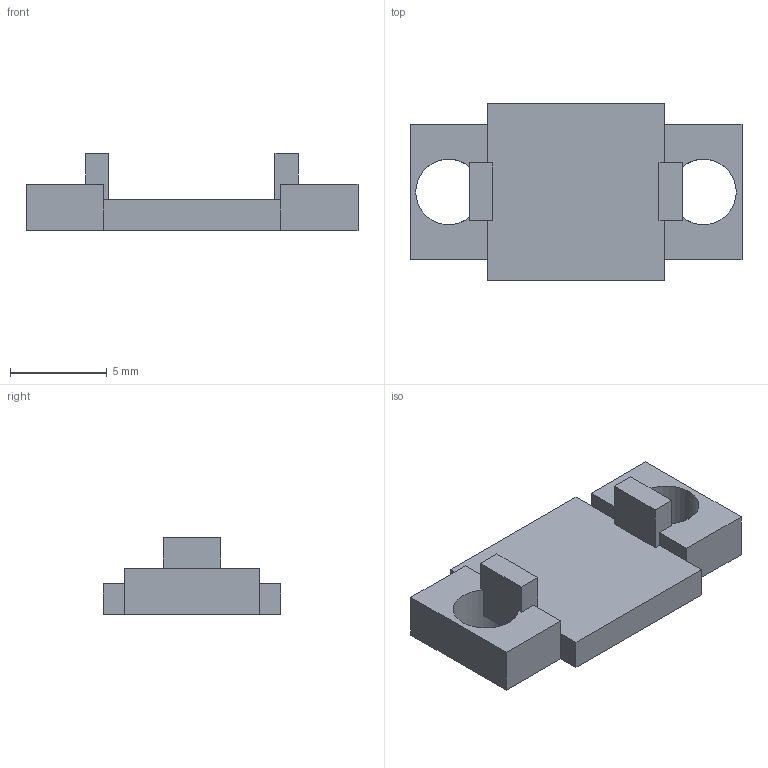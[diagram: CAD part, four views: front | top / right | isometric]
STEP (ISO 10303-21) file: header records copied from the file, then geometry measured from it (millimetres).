
FILE_DESCRIPTION(('FreeCAD Model'),'2;1');
FILE_NAME('Open CASCADE Shape Model','2026-11-20T08:25:38',('FreeCAD'),( 'FreeCAD'),'Open CASCADE STEP processor 7.8','FreeCAD','Unknown');
FILE_SCHEMA(('AUTOMOTIVE_DESIGN { 1 0 10303 214 1 1 1 1 }'));
Length unit declared in the file: millimetre
Products named in the file (1): Open CASCADE STEP translator 7.8 50
Bounding box: 17.2 x 9.2 x 4 mm (x, y, z)
Volume: 242.7 mm3; surface area: 446.9 mm2
Topology: 1 solids, 1 shells, 34 faces, 98 edges, 64 vertices
Faces by surface type: plane 32, cylinder 2
Full cylindrical faces by diameter (mm): 3.4 x2
Entity records: 1116 total; most frequent: CARTESIAN_POINT 197, ORIENTED_EDGE 196, DIRECTION 176, EDGE_CURVE 98, LINE 90, VECTOR 90, VERTEX_POINT 64, AXIS2_PLACEMENT_3D 43
